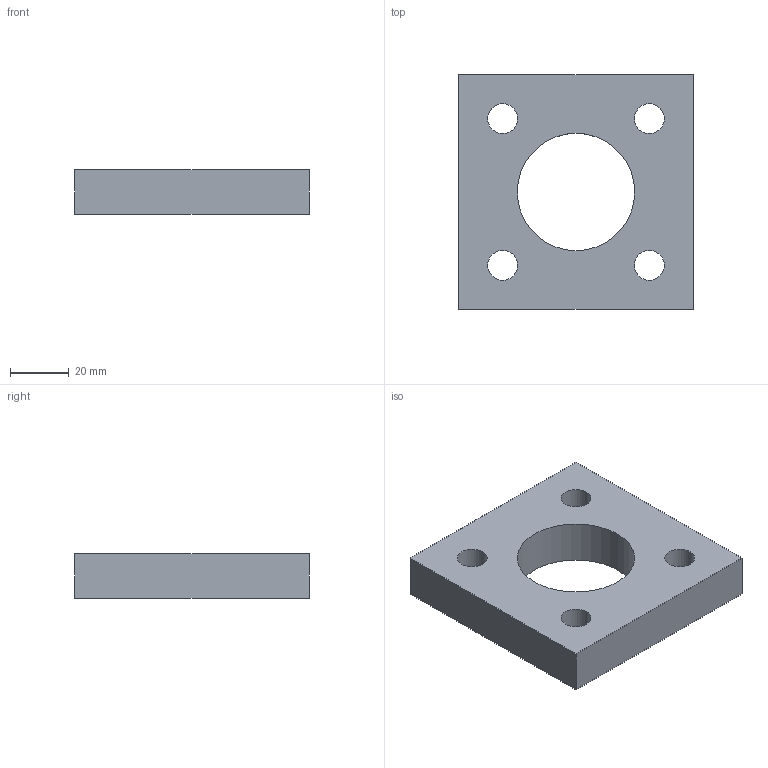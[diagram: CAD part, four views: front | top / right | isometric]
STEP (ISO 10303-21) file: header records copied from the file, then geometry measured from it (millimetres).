
FILE_DESCRIPTION (( 'STEP AP214' ), '1' );
FILE_NAME ('3D3.PC56.STEP', '2018-05-07T07:38:12', ( 'usuario' ), ( 'Hewlett-Packard Company' ), 'SwSTEP 2.0', 'SolidWorks 2013', '' );
FILE_SCHEMA (( 'AUTOMOTIVE_DESIGN' ));
Length unit declared in the file: millimetre
Products named in the file (1): 3D3.PC56
Bounding box: 80 x 80 x 15 mm (x, y, z)
Volume: 72247.7 mm3; surface area: 18240.6 mm2
Topology: 1 solids, 1 shells, 16 faces, 42 edges, 28 vertices
Faces by surface type: cylinder 10, plane 6
Entity records: 560 total; most frequent: DIRECTION 96, CARTESIAN_POINT 87, ORIENTED_EDGE 84, EDGE_CURVE 42, AXIS2_PLACEMENT_3D 37, VERTEX_POINT 28, EDGE_LOOP 26, VECTOR 22
